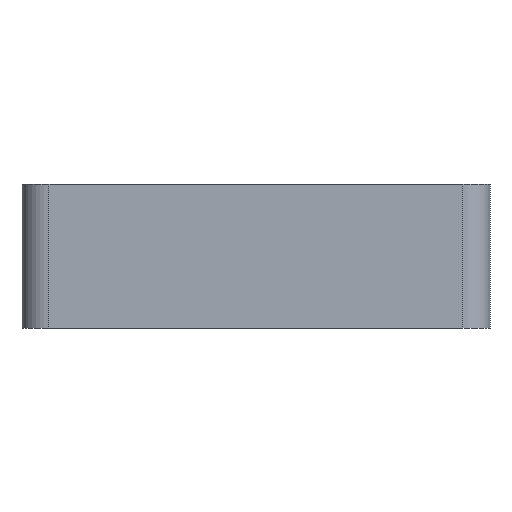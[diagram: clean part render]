
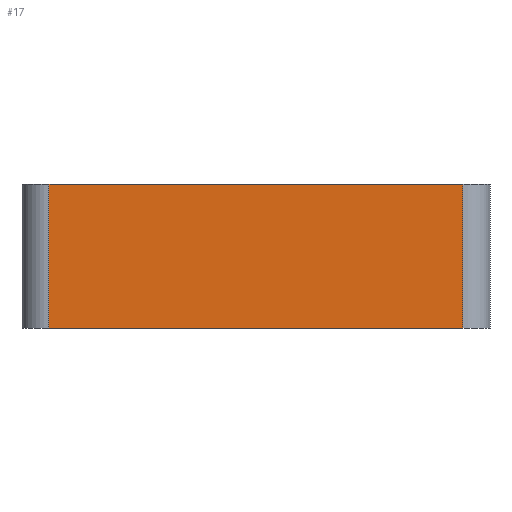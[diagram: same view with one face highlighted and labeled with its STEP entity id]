
A CAD part, left-side view. The second image highlights one B-rep face of the part: STEP entity #17.
In plain terms, the highlighted planar face has unit normal (-1, 0, 0).
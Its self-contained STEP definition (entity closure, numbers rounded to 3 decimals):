
#17 = ADVANCED_FACE('',(#18),#32,.F.);
#18 = FACE_BOUND('',#19,.F.);
#19 = EDGE_LOOP('',(#20,#55,#83,#111));
#20 = ORIENTED_EDGE('',*,*,#21,.F.);
#21 = EDGE_CURVE('',#22,#24,#26,.T.);
#22 = VERTEX_POINT('',#23);
#23 = CARTESIAN_POINT('',(-39.,-23.,16.));
#24 = VERTEX_POINT('',#25);
#25 = CARTESIAN_POINT('',(-39.,23.,16.));
#26 = SURFACE_CURVE('',#27,(#31,#43),.PCURVE_S1.);
#27 = LINE('',#28,#29);
#28 = CARTESIAN_POINT('',(-39.,-26.,16.));
#29 = VECTOR('',#30,1.);
#30 = DIRECTION('',(0.,1.,0.));
#31 = PCURVE('',#32,#37);
#32 = PLANE('',#33);
#33 = AXIS2_PLACEMENT_3D('',#34,#35,#36);
#34 = CARTESIAN_POINT('',(-39.,-26.,0.));
#35 = DIRECTION('',(1.,0.,0.));
#36 = DIRECTION('',(0.,0.,1.));
#37 = DEFINITIONAL_REPRESENTATION('',(#38),#42);
#38 = LINE('',#39,#40);
#39 = CARTESIAN_POINT('',(16.,0.));
#40 = VECTOR('',#41,1.);
#41 = DIRECTION('',(0.,-1.));
#42 = ( GEOMETRIC_REPRESENTATION_CONTEXT(2) 
PARAMETRIC_REPRESENTATION_CONTEXT() REPRESENTATION_CONTEXT('2D SPACE',''
  ) );
#43 = PCURVE('',#44,#49);
#44 = PLANE('',#45);
#45 = AXIS2_PLACEMENT_3D('',#46,#47,#48);
#46 = CARTESIAN_POINT('',(-39.,-26.,16.));
#47 = DIRECTION('',(0.,0.,1.));
#48 = DIRECTION('',(1.,0.,0.));
#49 = DEFINITIONAL_REPRESENTATION('',(#50),#54);
#50 = LINE('',#51,#52);
#51 = CARTESIAN_POINT('',(0.,0.));
#52 = VECTOR('',#53,1.);
#53 = DIRECTION('',(0.,1.));
#54 = ( GEOMETRIC_REPRESENTATION_CONTEXT(2) 
PARAMETRIC_REPRESENTATION_CONTEXT() REPRESENTATION_CONTEXT('2D SPACE',''
  ) );
#55 = ORIENTED_EDGE('',*,*,#56,.F.);
#56 = EDGE_CURVE('',#57,#22,#59,.T.);
#57 = VERTEX_POINT('',#58);
#58 = CARTESIAN_POINT('',(-39.,-23.,0.));
#59 = SURFACE_CURVE('',#60,(#64,#71),.PCURVE_S1.);
#60 = LINE('',#61,#62);
#61 = CARTESIAN_POINT('',(-39.,-23.,0.));
#62 = VECTOR('',#63,1.);
#63 = DIRECTION('',(0.,0.,1.));
#64 = PCURVE('',#32,#65);
#65 = DEFINITIONAL_REPRESENTATION('',(#66),#70);
#66 = LINE('',#67,#68);
#67 = CARTESIAN_POINT('',(0.,-3.));
#68 = VECTOR('',#69,1.);
#69 = DIRECTION('',(1.,0.));
#70 = ( GEOMETRIC_REPRESENTATION_CONTEXT(2) 
PARAMETRIC_REPRESENTATION_CONTEXT() REPRESENTATION_CONTEXT('2D SPACE',''
  ) );
#71 = PCURVE('',#72,#77);
#72 = CYLINDRICAL_SURFACE('',#73,3.);
#73 = AXIS2_PLACEMENT_3D('',#74,#75,#76);
#74 = CARTESIAN_POINT('',(-36.,-23.,0.));
#75 = DIRECTION('',(0.,0.,1.));
#76 = DIRECTION('',(-1.,-0.,0.));
#77 = DEFINITIONAL_REPRESENTATION('',(#78),#82);
#78 = LINE('',#79,#80);
#79 = CARTESIAN_POINT('',(0.,0.));
#80 = VECTOR('',#81,1.);
#81 = DIRECTION('',(0.,1.));
#82 = ( GEOMETRIC_REPRESENTATION_CONTEXT(2) 
PARAMETRIC_REPRESENTATION_CONTEXT() REPRESENTATION_CONTEXT('2D SPACE',''
  ) );
#83 = ORIENTED_EDGE('',*,*,#84,.T.);
#84 = EDGE_CURVE('',#57,#85,#87,.T.);
#85 = VERTEX_POINT('',#86);
#86 = CARTESIAN_POINT('',(-39.,23.,0.));
#87 = SURFACE_CURVE('',#88,(#92,#99),.PCURVE_S1.);
#88 = LINE('',#89,#90);
#89 = CARTESIAN_POINT('',(-39.,-26.,0.));
#90 = VECTOR('',#91,1.);
#91 = DIRECTION('',(0.,1.,0.));
#92 = PCURVE('',#32,#93);
#93 = DEFINITIONAL_REPRESENTATION('',(#94),#98);
#94 = LINE('',#95,#96);
#95 = CARTESIAN_POINT('',(0.,0.));
#96 = VECTOR('',#97,1.);
#97 = DIRECTION('',(0.,-1.));
#98 = ( GEOMETRIC_REPRESENTATION_CONTEXT(2) 
PARAMETRIC_REPRESENTATION_CONTEXT() REPRESENTATION_CONTEXT('2D SPACE',''
  ) );
#99 = PCURVE('',#100,#105);
#100 = PLANE('',#101);
#101 = AXIS2_PLACEMENT_3D('',#102,#103,#104);
#102 = CARTESIAN_POINT('',(-39.,-26.,0.));
#103 = DIRECTION('',(0.,0.,1.));
#104 = DIRECTION('',(1.,0.,0.));
#105 = DEFINITIONAL_REPRESENTATION('',(#106),#110);
#106 = LINE('',#107,#108);
#107 = CARTESIAN_POINT('',(0.,0.));
#108 = VECTOR('',#109,1.);
#109 = DIRECTION('',(0.,1.));
#110 = ( GEOMETRIC_REPRESENTATION_CONTEXT(2) 
PARAMETRIC_REPRESENTATION_CONTEXT() REPRESENTATION_CONTEXT('2D SPACE',''
  ) );
#111 = ORIENTED_EDGE('',*,*,#112,.T.);
#112 = EDGE_CURVE('',#85,#24,#113,.T.);
#113 = SURFACE_CURVE('',#114,(#118,#125),.PCURVE_S1.);
#114 = LINE('',#115,#116);
#115 = CARTESIAN_POINT('',(-39.,23.,0.));
#116 = VECTOR('',#117,1.);
#117 = DIRECTION('',(0.,0.,1.));
#118 = PCURVE('',#32,#119);
#119 = DEFINITIONAL_REPRESENTATION('',(#120),#124);
#120 = LINE('',#121,#122);
#121 = CARTESIAN_POINT('',(0.,-49.));
#122 = VECTOR('',#123,1.);
#123 = DIRECTION('',(1.,0.));
#124 = ( GEOMETRIC_REPRESENTATION_CONTEXT(2) 
PARAMETRIC_REPRESENTATION_CONTEXT() REPRESENTATION_CONTEXT('2D SPACE',''
  ) );
#125 = PCURVE('',#126,#131);
#126 = CYLINDRICAL_SURFACE('',#127,3.);
#127 = AXIS2_PLACEMENT_3D('',#128,#129,#130);
#128 = CARTESIAN_POINT('',(-36.,23.,0.));
#129 = DIRECTION('',(0.,0.,1.));
#130 = DIRECTION('',(-1.,-0.,0.));
#131 = DEFINITIONAL_REPRESENTATION('',(#132),#136);
#132 = LINE('',#133,#134);
#133 = CARTESIAN_POINT('',(-0.,0.));
#134 = VECTOR('',#135,1.);
#135 = DIRECTION('',(-0.,1.));
#136 = ( GEOMETRIC_REPRESENTATION_CONTEXT(2) 
PARAMETRIC_REPRESENTATION_CONTEXT() REPRESENTATION_CONTEXT('2D SPACE',''
  ) );
